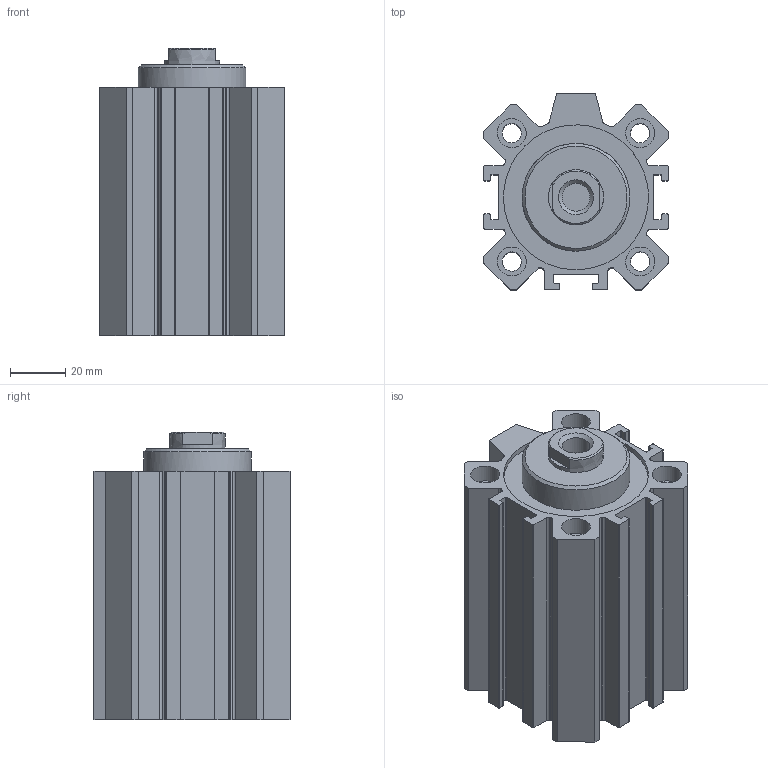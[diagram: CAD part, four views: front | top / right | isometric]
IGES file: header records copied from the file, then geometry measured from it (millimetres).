
Global section: file name: 1511_50_0050; native system: Autodesk Inventor 2014; preprocessor: unknown; author: A. Manieri; date: 20160824.134048; units: millimetre
Bounding box: 67 x 71 x 104 mm (x, y, z)
Volume: 238772.5 mm3; surface area: 78509.2 mm2
Topology: 2 solids, 2 shells, 165 faces, 443 edges, 300 vertices
Faces by surface type: bspline 165
